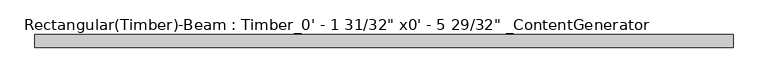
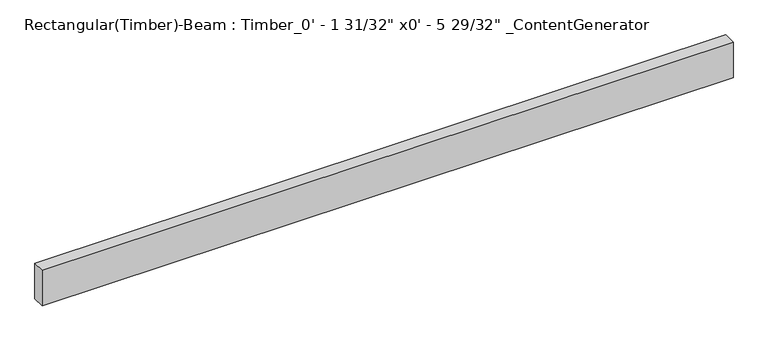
"""IFC4 building model written with IfcOpenShell, lengths in millimetres: beam geometry."""

from ifc_helpers import new_model, si_unit, frame, origin, place, context, project, spatial, polyline, outline, extrude, source, transform, mapped, element, save


def beam_07e80ac2(model_context):
    return source(origin(), model_context, "Body", "SweptSolid", [
        extrude(outline(polyline([(1400.175, 25.4), (1400.175, -25.4), (-1400.175, -25.4), (-1400.175, 25.4), (1400.175, 25.4)])), frame((0.0, 0.0, -76.2), z_axis=(0.0, 0.0, 1.0), x_axis=(1.0, 0.0, 0.0)), (0.0, 0.0, 1.0), 152.4),
    ])


if __name__ == "__main__":
    model = new_model("IFC4")
    model_context = context("Model", 3, world=origin())
    ifc_project = project(units=[si_unit("LENGTHUNIT", "METRE", prefix="MILLI")], contexts=[model_context])
    site = spatial("IfcSite", under=ifc_project)
    building = spatial("IfcBuilding", under=site)
    placement = place(None, origin())
    beam_shape = beam_07e80ac2(model_context)
    element("IfcBeam", 1, ObjectType="Rectangular(Timber)-Beam : Timber_0' - 1 31/32\" x0' - 5 29/32\" _ContentGenerator", at=placement, inside=building, context=model_context, shape_type="MappedRepresentation", body=[
        mapped(beam_shape, transform((0.0, 0.0, 0.0), x_axis=(1.0, 0.0, 0.0), y_axis=(0.0, 1.0, 0.0), z_axis=(0.0, 0.0, 1.0))),
    ])
    save(model, "model.ifc")
